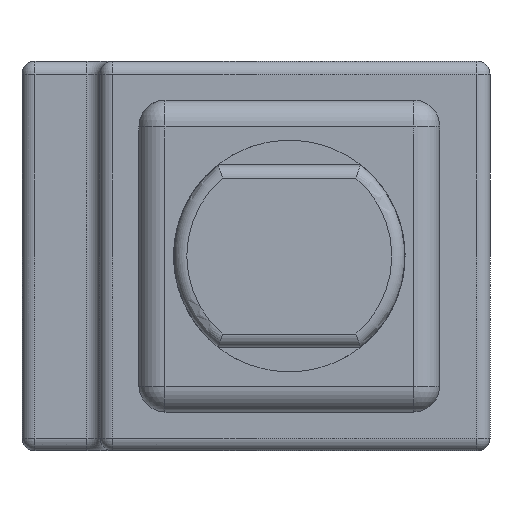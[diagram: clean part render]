
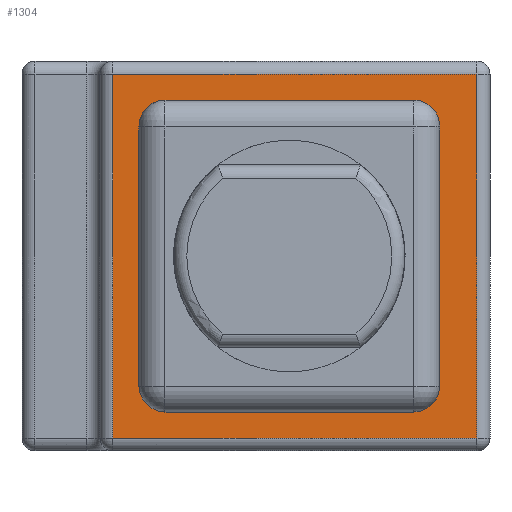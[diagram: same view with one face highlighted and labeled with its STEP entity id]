
A CAD part, left-side view. The second image highlights one B-rep face of the part: STEP entity #1304.
In plain terms, the highlighted planar face has unit normal (-1, 0, 0).
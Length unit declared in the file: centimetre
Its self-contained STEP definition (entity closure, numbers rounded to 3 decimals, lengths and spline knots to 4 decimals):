
#148=PLANE('',#1473);
#177=VECTOR('',#1597,1.);
#178=VECTOR('',#1599,1.);
#179=VECTOR('',#1602,1.);
#180=VECTOR('',#1604,1.);
#209=VECTOR('',#1812,1.);
#213=VECTOR('',#1820,1.);
#216=VECTOR('',#1825,1.);
#219=VECTOR('',#1832,1.);
#260=LINE('',#2039,#177);
#261=LINE('',#2041,#178);
#262=LINE('',#2044,#179);
#263=LINE('',#2046,#180);
#292=LINE('',#2661,#209);
#296=LINE('',#2667,#213);
#299=LINE('',#2671,#216);
#302=LINE('',#2676,#219);
#346=VERTEX_POINT('',#1983);
#347=VERTEX_POINT('',#1984);
#351=VERTEX_POINT('',#1996);
#352=VERTEX_POINT('',#1997);
#356=VERTEX_POINT('',#2012);
#357=VERTEX_POINT('',#2013);
#361=VERTEX_POINT('',#2025);
#362=VERTEX_POINT('',#2026);
#411=VERTEX_POINT('',#2628);
#414=VERTEX_POINT('',#2638);
#418=VERTEX_POINT('',#2646);
#420=VERTEX_POINT('',#2655);
#436=CIRCLE('',#1334,0.1);
#440=CIRCLE('',#1340,0.1);
#444=CIRCLE('',#1347,0.1);
#448=CIRCLE('',#1353,0.1);
#528=EDGE_CURVE('',#346,#347,#436,.F.);
#534=EDGE_CURVE('',#351,#352,#440,.F.);
#542=EDGE_CURVE('',#356,#357,#444,.F.);
#548=EDGE_CURVE('',#361,#362,#448,.F.);
#557=EDGE_CURVE('',#346,#352,#260,.T.);
#558=EDGE_CURVE('',#351,#362,#261,.T.);
#559=EDGE_CURVE('',#361,#357,#262,.T.);
#560=EDGE_CURVE('',#356,#347,#263,.T.);
#651=EDGE_CURVE('',#420,#418,#292,.T.);
#655=EDGE_CURVE('',#414,#420,#296,.T.);
#658=EDGE_CURVE('',#418,#411,#299,.T.);
#661=EDGE_CURVE('',#411,#414,#302,.T.);
#1003=ORIENTED_EDGE('',*,*,#560,.T.);
#1004=ORIENTED_EDGE('',*,*,#528,.F.);
#1005=ORIENTED_EDGE('',*,*,#557,.T.);
#1006=ORIENTED_EDGE('',*,*,#534,.F.);
#1007=ORIENTED_EDGE('',*,*,#558,.T.);
#1008=ORIENTED_EDGE('',*,*,#548,.F.);
#1009=ORIENTED_EDGE('',*,*,#559,.T.);
#1010=ORIENTED_EDGE('',*,*,#542,.F.);
#1011=ORIENTED_EDGE('',*,*,#651,.F.);
#1012=ORIENTED_EDGE('',*,*,#655,.F.);
#1013=ORIENTED_EDGE('',*,*,#661,.F.);
#1014=ORIENTED_EDGE('',*,*,#658,.F.);
#1119=EDGE_LOOP('',(#1003,#1004,#1005,#1006,#1007,#1008,#1009,#1010));
#1120=EDGE_LOOP('',(#1011,#1012,#1013,#1014));
#1216=FACE_BOUND('',#1119,.T.);
#1217=FACE_BOUND('',#1120,.T.);
#1304=ADVANCED_FACE('',(#1216,#1217),#148,.T.);
#1334=AXIS2_PLACEMENT_3D('',#1982,#1534,#1535);
#1340=AXIS2_PLACEMENT_3D('',#1995,#1548,#1549);
#1347=AXIS2_PLACEMENT_3D('',#2011,#1566,#1567);
#1353=AXIS2_PLACEMENT_3D('',#2024,#1580,#1581);
#1473=AXIS2_PLACEMENT_3D('',#2703,#1867,$);
#1534=DIRECTION('',(1.,0.,0.));
#1535=DIRECTION('',(0.,0.071,-0.071));
#1548=DIRECTION('',(1.,0.,0.));
#1549=DIRECTION('',(0.,0.071,0.071));
#1566=DIRECTION('',(1.,0.,0.));
#1567=DIRECTION('',(0.,-0.071,-0.071));
#1580=DIRECTION('',(1.,0.,0.));
#1581=DIRECTION('',(0.,-0.071,0.071));
#1597=DIRECTION('',(0.,0.,1.));
#1599=DIRECTION('',(0.,-1.,0.));
#1602=DIRECTION('',(0.,0.,-1.));
#1604=DIRECTION('',(0.,1.,0.));
#1812=DIRECTION('',(0.,1.,0.));
#1820=DIRECTION('',(0.,0.,-1.));
#1825=DIRECTION('',(0.,0.,1.));
#1832=DIRECTION('',(0.,-1.,0.));
#1867=DIRECTION('',(-1.,0.,0.));
#1982=CARTESIAN_POINT('',(-3.7,1.25,0.25));
#1983=CARTESIAN_POINT('',(-3.7,1.35,0.25));
#1984=CARTESIAN_POINT('',(-3.7,1.25,0.15));
#1995=CARTESIAN_POINT('',(-3.7,1.25,1.25));
#1996=CARTESIAN_POINT('',(-3.7,1.25,1.35));
#1997=CARTESIAN_POINT('',(-3.7,1.35,1.25));
#2011=CARTESIAN_POINT('',(-3.7,0.2937,0.25));
#2012=CARTESIAN_POINT('',(-3.7,0.2937,0.15));
#2013=CARTESIAN_POINT('',(-3.7,0.1937,0.25));
#2024=CARTESIAN_POINT('',(-3.7,0.2937,1.25));
#2025=CARTESIAN_POINT('',(-3.7,0.1937,1.25));
#2026=CARTESIAN_POINT('',(-3.7,0.2937,1.35));
#2039=CARTESIAN_POINT('',(-3.7,1.35,0.375));
#2041=CARTESIAN_POINT('',(-3.7,0.7609,1.35));
#2044=CARTESIAN_POINT('',(-3.7,0.1937,0.375));
#2046=CARTESIAN_POINT('',(-3.7,0.7609,0.15));
#2628=CARTESIAN_POINT('',(-3.7,1.45,1.45));
#2638=CARTESIAN_POINT('',(-3.7,0.05,1.45));
#2646=CARTESIAN_POINT('',(-3.7,1.45,0.05));
#2655=CARTESIAN_POINT('',(-3.7,0.05,0.05));
#2661=CARTESIAN_POINT('',(-3.7,0.8134,0.05));
#2667=CARTESIAN_POINT('',(-3.7,0.05,0.));
#2671=CARTESIAN_POINT('',(-3.7,1.45,0.));
#2676=CARTESIAN_POINT('',(-3.7,0.8134,1.45));
#2703=CARTESIAN_POINT('',(-3.7,0.75,0.));
